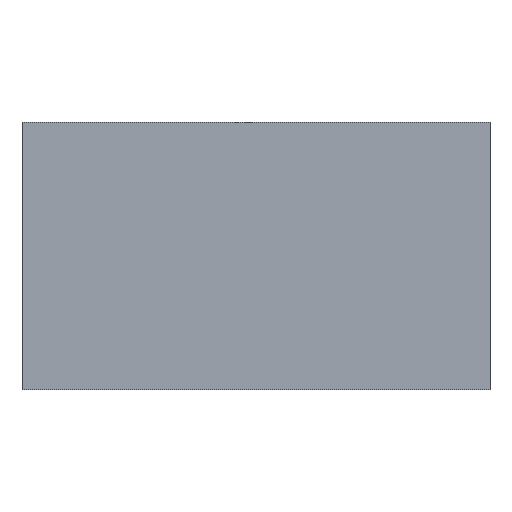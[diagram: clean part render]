
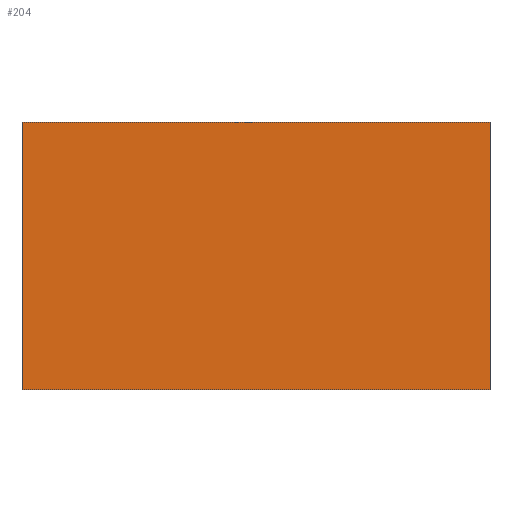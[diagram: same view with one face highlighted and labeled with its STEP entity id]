
A CAD part, front view. The second image highlights one B-rep face of the part: STEP entity #204.
In plain terms, the highlighted planar face has unit normal (0, -1, 0).
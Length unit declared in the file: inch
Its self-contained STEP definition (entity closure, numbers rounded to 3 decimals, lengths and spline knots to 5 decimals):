
#21=PLANE('',#241);
#32=FACE_OUTER_BOUND('',#43,.T.);
#43=EDGE_LOOP('',(#179,#180,#181,#182));
#52=LINE('',#326,#73);
#57=LINE('',#337,#78);
#64=LINE('',#353,#85);
#65=LINE('',#355,#86);
#73=VECTOR('',#268,0.3937);
#78=VECTOR('',#277,0.3937);
#85=VECTOR('',#294,0.3937);
#86=VECTOR('',#297,0.3937);
#101=VERTEX_POINT('',#323);
#102=VERTEX_POINT('',#325);
#106=VERTEX_POINT('',#335);
#110=VERTEX_POINT('',#351);
#122=EDGE_CURVE('',#102,#101,#52,.T.);
#128=EDGE_CURVE('',#101,#106,#57,.T.);
#136=EDGE_CURVE('',#106,#110,#64,.T.);
#137=EDGE_CURVE('',#110,#102,#65,.T.);
#179=ORIENTED_EDGE('',*,*,#137,.T.);
#180=ORIENTED_EDGE('',*,*,#122,.T.);
#181=ORIENTED_EDGE('',*,*,#128,.T.);
#182=ORIENTED_EDGE('',*,*,#136,.T.);
#204=ADVANCED_FACE('',(#32),#21,.T.);
#241=AXIS2_PLACEMENT_3D('',#354,#295,#296);
#268=DIRECTION('',(0.,0.,-1.));
#277=DIRECTION('',(1.,0.,0.));
#294=DIRECTION('',(0.,0.,1.));
#295=DIRECTION('center_axis',(0.,-1.,0.));
#296=DIRECTION('ref_axis',(0.,0.,-1.));
#297=DIRECTION('',(-1.,0.,0.));
#323=CARTESIAN_POINT('',(0.,0.,-0.5));
#325=CARTESIAN_POINT('',(0.,0.,0.5));
#326=CARTESIAN_POINT('',(0.,0.,0.));
#335=CARTESIAN_POINT('',(1.75,0.,-0.5));
#337=CARTESIAN_POINT('',(0.,0.,-0.5));
#351=CARTESIAN_POINT('',(1.75,0.,0.5));
#353=CARTESIAN_POINT('',(1.75,0.,0.));
#354=CARTESIAN_POINT('Origin',(1.75,0.,0.));
#355=CARTESIAN_POINT('',(0.,0.,0.5));
